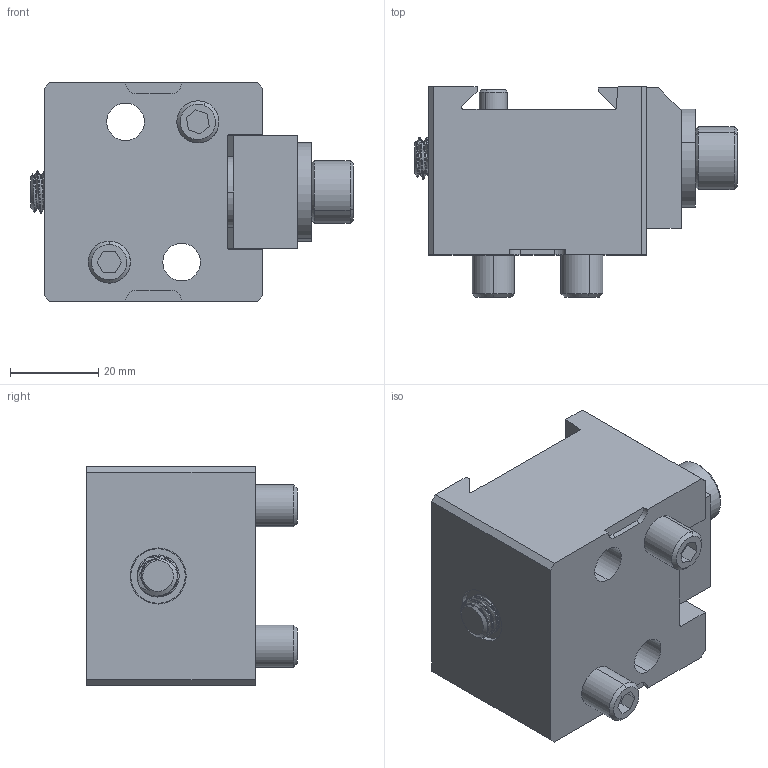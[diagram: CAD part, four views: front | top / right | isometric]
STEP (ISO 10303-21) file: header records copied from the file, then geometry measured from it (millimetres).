
FILE_DESCRIPTION (( 'STEP AP214' ), '1' );
FILE_NAME ('D221M REV A DOVETAIL FIXTURE.STEP', '2015-08-25T15:35:58', ( '' ), ( '' ), 'SwSTEP 2.0', 'SolidWorks 2015', '' );
FILE_SCHEMA (( 'AUTOMOTIVE_DESIGN' ));
Length unit declared in the file: inch
Products named in the file (10): CDM375 DOVETAIL CLAMP_CDM375; SLD375 REV E DOVETAIL CLAMP SLEEVE_SLD375; CDM375 REV F DOVETAIL CLAMP BODY; .375-16 TIME SERT_03819; LP375 REV C LOCATING PIN_LP375; LP250 REV E LOCATING PIN_LP250; D221M REV F 2X2 MODULAR DOVETAIL FIXTURE_D221M; D221M REV A DOVETAIL FIXTURE; 91251A634 .375-16 X 2.5 SHCS_91251A634; .375 WASHER_98029A031
Assembly tree (10 placements, depth 3):
  D221M REV A DOVETAIL FIXTURE
    D221M REV F 2X2 MODULAR DOVETAIL FIXTURE_D221M
    LP250 REV E LOCATING PIN_LP250
    LP375 REV C LOCATING PIN_LP375  x2
    .375-16 TIME SERT_03819
    CDM375 DOVETAIL CLAMP_CDM375
      CDM375 REV F DOVETAIL CLAMP BODY
      SLD375 REV E DOVETAIL CLAMP SLEEVE_SLD375
    .375 WASHER_98029A031
    91251A634 .375-16 X 2.5 SHCS_91251A634
Bounding box: 73.03 x 47.62 x 49.53 mm (x, y, z)
Volume: 86748.4 mm3; surface area: 31782.9 mm2
Topology: 9 solids, 9 shells, 282 faces, 699 edges, 453 vertices
Faces by surface type: cylinder 154, plane 93, cone 33, bspline 2
Entity records: 11467 total; most frequent: CARTESIAN_POINT 4884, ORIENTED_EDGE 1318, DIRECTION 1204, EDGE_CURVE 659, AXIS2_PLACEMENT_3D 446, VERTEX_POINT 429, VECTOR 312, LINE 312
